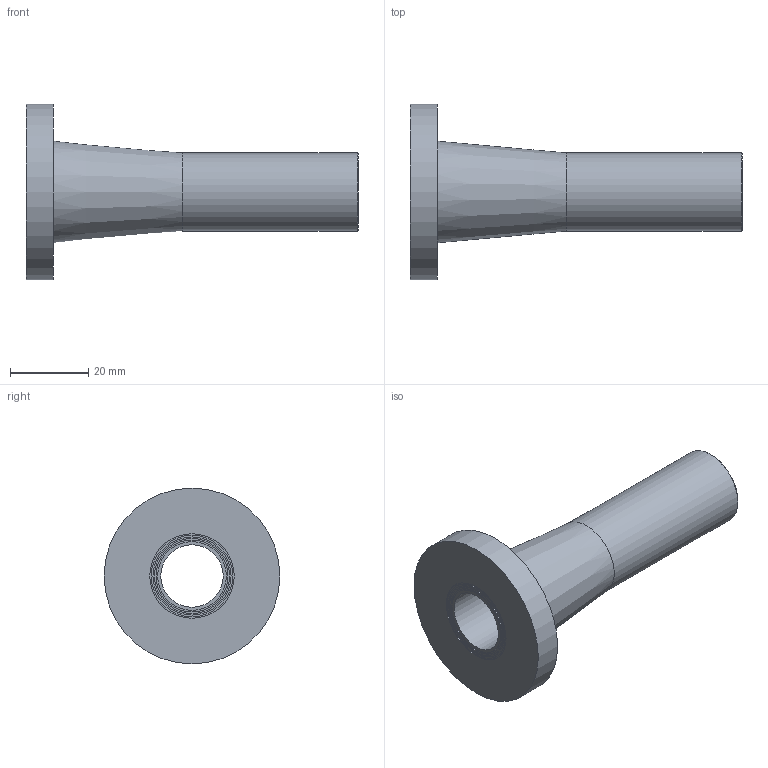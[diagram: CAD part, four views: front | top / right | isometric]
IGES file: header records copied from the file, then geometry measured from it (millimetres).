
Global section: file name: 490207020.ipt; native system: Autodesk Inventor 2015; preprocessor: unknown; author: Кирилл,,11,0; organization: 20170718.095537; date: 20190331.185810; units: millimetre
Bounding box: 85 x 45 x 45 mm (x, y, z)
Volume: 21952.3 mm3; surface area: 13112.3 mm2
Topology: 1 solids, 1 shells, 20 faces, 33 edges, 22 vertices
Faces by surface type: plane 9, cylinder 5, revolution 4, cone 2
Full cylindrical faces by diameter (mm): 17.6 x1, 19.2 x1, 20 x1, 20.8 x1, 45 x1
